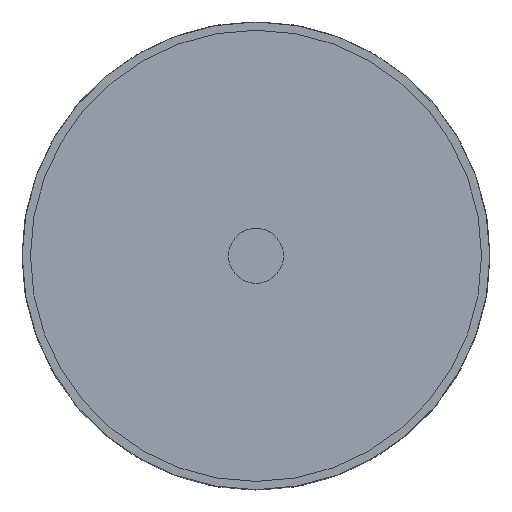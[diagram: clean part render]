
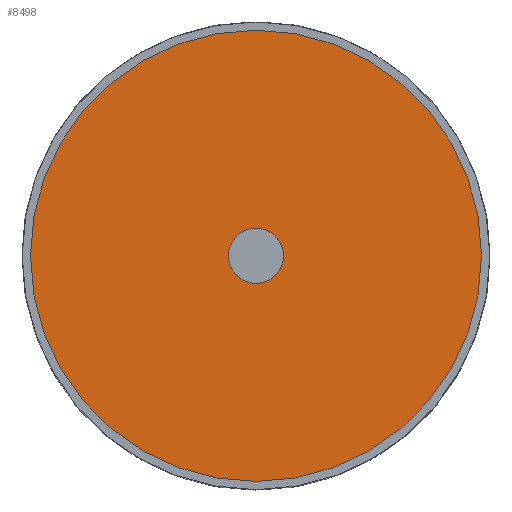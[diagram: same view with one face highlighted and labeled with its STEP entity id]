
A CAD part, top view. The second image highlights one B-rep face of the part: STEP entity #8498.
In plain terms, the highlighted planar face has unit normal (0, 0, 1).
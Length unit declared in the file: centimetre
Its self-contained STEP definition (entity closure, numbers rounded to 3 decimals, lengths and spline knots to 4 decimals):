
#437=FACE_BOUND('',#1808,.T.);
#734=PLANE('',#9863);
#1209=FACE_OUTER_BOUND('',#1807,.T.);
#1807=EDGE_LOOP('',(#7567));
#1808=EDGE_LOOP('',(#7568));
#3722=CIRCLE('',#9860,0.1);
#3723=CIRCLE('',#9862,0.82);
#4420=VERTEX_POINT('',#14800);
#4421=VERTEX_POINT('',#14804);
#5488=EDGE_CURVE('',#4420,#4420,#3722,.T.);
#5490=EDGE_CURVE('',#4421,#4421,#3723,.T.);
#7567=ORIENTED_EDGE('',*,*,#5490,.T.);
#7568=ORIENTED_EDGE('',*,*,#5488,.T.);
#8498=ADVANCED_FACE('',(#1209,#437),#734,.T.);
#9860=AXIS2_PLACEMENT_3D('',#14801,#12238,#12239);
#9862=AXIS2_PLACEMENT_3D('',#14805,#12243,#12244);
#9863=AXIS2_PLACEMENT_3D('',#14807,#12246,#12247);
#12238=DIRECTION('center_axis',(0.,0.,-1.));
#12239=DIRECTION('ref_axis',(1.,0.,0.));
#12243=DIRECTION('center_axis',(0.,0.,1.));
#12244=DIRECTION('ref_axis',(1.,0.,0.));
#12246=DIRECTION('center_axis',(0.,0.,1.));
#12247=DIRECTION('ref_axis',(1.,0.,0.));
#14800=CARTESIAN_POINT('',(-0.1,0.,0.88));
#14801=CARTESIAN_POINT('Origin',(0.,0.,0.88));
#14804=CARTESIAN_POINT('',(-0.82,0.,0.88));
#14805=CARTESIAN_POINT('Origin',(0.,0.,0.88));
#14807=CARTESIAN_POINT('Origin',(0.,0.,0.88));
